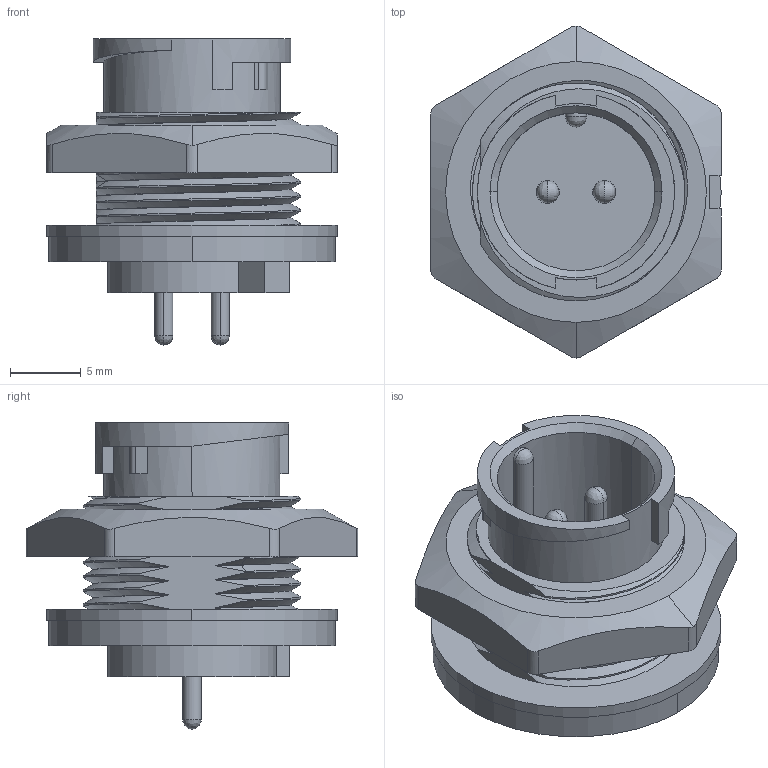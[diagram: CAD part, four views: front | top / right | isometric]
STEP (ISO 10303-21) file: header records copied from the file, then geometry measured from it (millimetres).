
FILE_DESCRIPTION (( 'STEP AP203' ), '1' );
FILE_NAME ('870-02A-113R001.STEP', '2024-06-14T18:41:41', ( '' ), ( '' ), 'SwSTEP 2.0', 'SolidWorks 2020', '' );
FILE_SCHEMA (( 'CONFIG_CONTROL_DESIGN' ));
Length unit declared in the file: millimetre
Products named in the file (1): 870-02A-113R001
Bounding box: 20.6 x 23.54 x 21.7 mm (x, y, z)
Volume: 2609.7 mm3; surface area: 3380.8 mm2
Topology: 2 solids, 2 shells, 180 faces, 486 edges, 306 vertices
Faces by surface type: cylinder 63, bspline 53, plane 47, cone 17
Entity records: 11670 total; most frequent: CARTESIAN_POINT 7640, ORIENTED_EDGE 936, DIRECTION 636, EDGE_CURVE 468, VERTEX_POINT 306, AXIS2_PLACEMENT_3D 246, B_SPLINE_CURVE_WITH_KNOTS 206, EDGE_LOOP 196
